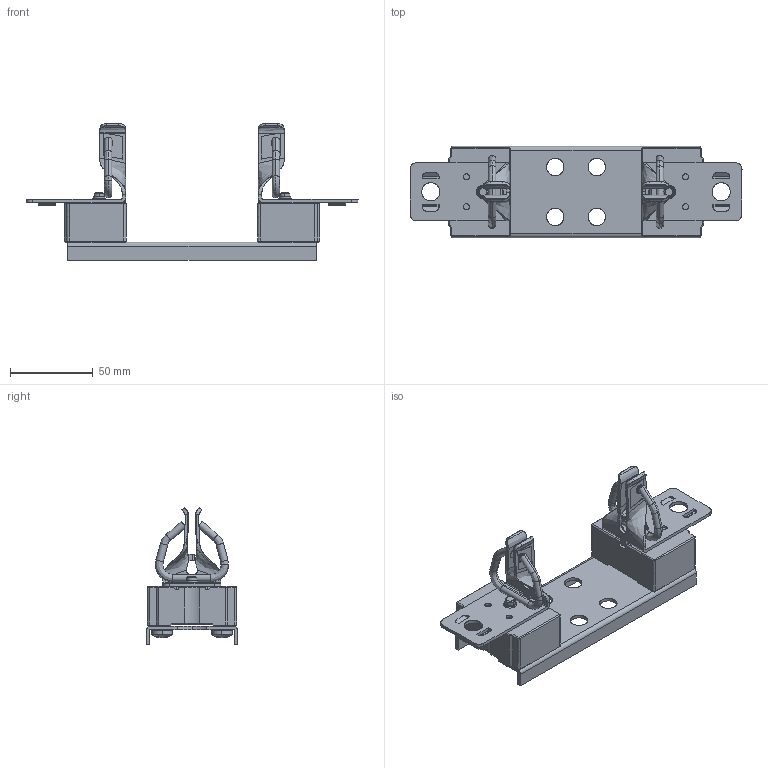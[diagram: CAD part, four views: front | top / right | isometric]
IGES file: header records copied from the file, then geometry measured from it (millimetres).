
Start section: SolidWorks IGES file using analytic representation for surfaces
Global section: file name: U:\14_RD\05_Technical_office\04_Office\Hrdinova\3D modely - IGES\Varius - Ostatní\SPF1.IGS; native system: SolidWorks 2011; preprocessor: SolidWorks 2011; author: adhrja3; date: 170620.143059; units: millimetre
Bounding box: 200.03 x 55 x 82.5 mm (x, y, z)
Surface area: 63301.4 mm2 (no closed solid volume)
Topology: 0 solids, 0 shells, 740 faces, 9318 edges, 9298 vertices
Faces by surface type: bspline 438, revolution 302
